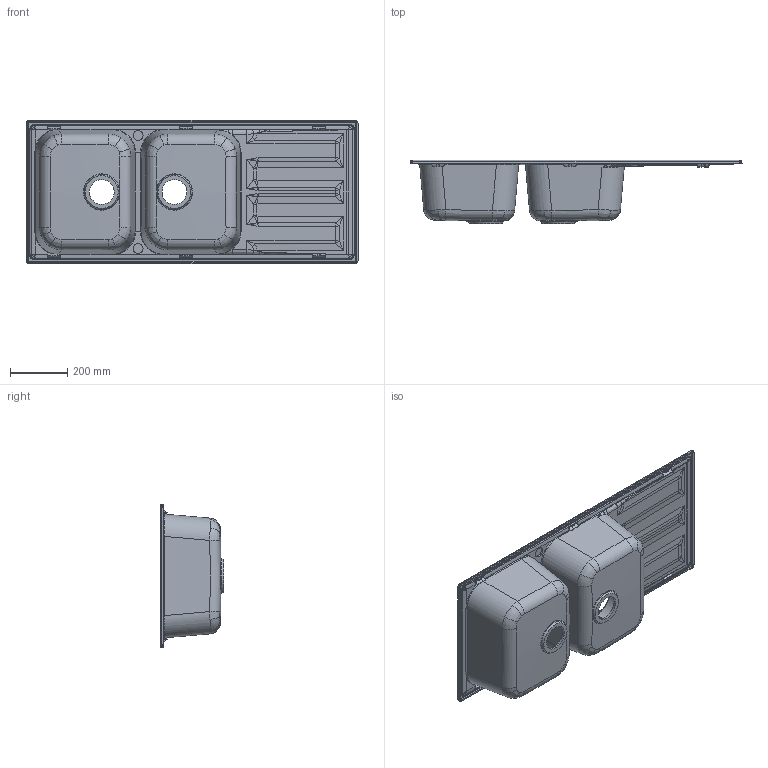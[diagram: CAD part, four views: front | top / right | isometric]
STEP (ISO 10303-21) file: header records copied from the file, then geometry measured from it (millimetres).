
FILE_DESCRIPTION((''),'1');
FILE_NAME('C:/Users/linop/Desktop/LZ116A2-2.stp','2018-05-29T14:47:24',(''),(''),'Spatial Interop R20 SP1','Kubotek KeyCreator V9.0.3 (16864)',' ');
FILE_SCHEMA(('CONFIG_CONTROL_DESIGN'));
Length unit declared in the file: millimetre
Products named in the file (1): 1
Bounding box: 1160 x 220.6 x 500 mm (x, y, z)
Volume: 8271402.5 mm3; surface area: 2065029.7 mm2
Topology: 1 solids, 1 shells, 831 faces, 2266 edges, 1403 vertices
Faces by surface type: bspline 462, cylinder 227, plane 72, sphere 38, torus 26, cone 6
Full cylindrical faces by diameter (mm): 30 x1, 35 x2
Entity records: 40305 total; most frequent: CARTESIAN_POINT 24951, ORIENTED_EDGE 4404, EDGE_CURVE 2202, DIRECTION 1612, VERTEX_POINT 1401, B_SPLINE_CURVE_WITH_KNOTS 1087, EDGE_LOOP 865, ADVANCED_FACE 831
